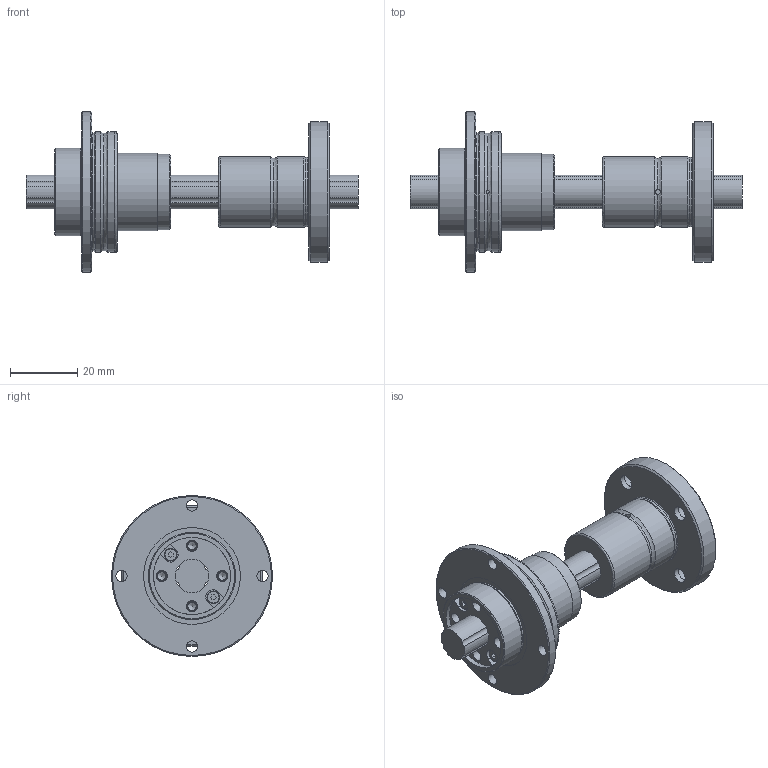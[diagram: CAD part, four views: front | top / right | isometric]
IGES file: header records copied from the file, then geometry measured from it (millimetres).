
Start section: Data from Parasolid IGES Translator 26.0.171, Copyright(c) 2006 Siemens PLM Software. All Rights Reserved.
Global section: file name: NS1015A+99L.igs; native system: By Siemens PLM Incorporated; preprocessor: XPlus GENERIC/IGES 26.0.171; author: Noname; organization: Noname; date: 20250611.084526; units: millimetre
Bounding box: 99 x 48 x 48 mm (x, y, z)
Surface area: 18419.9 mm2 (no closed solid volume)
Topology: 0 solids, 0 shells, 136 faces, 592 edges, 493 vertices
Faces by surface type: revolution 85, extrusion 51
